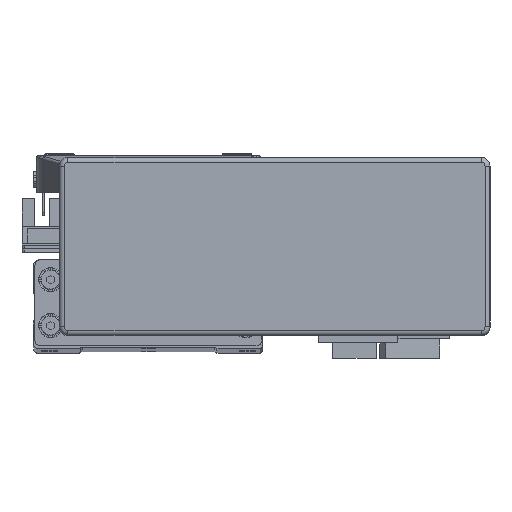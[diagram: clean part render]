
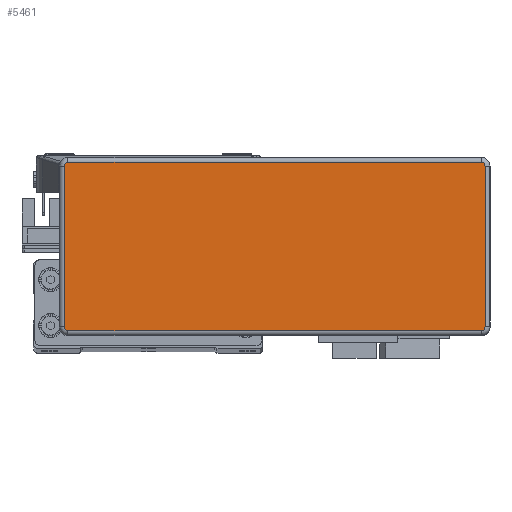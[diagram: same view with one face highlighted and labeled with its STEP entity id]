
A CAD part, top view. The second image highlights one B-rep face of the part: STEP entity #5461.
In plain terms, the highlighted planar face has unit normal (0, 0, 1) as drawn and (0, 0, -1) by its records, which use the part's own axes.
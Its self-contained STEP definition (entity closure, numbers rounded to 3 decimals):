
#5461 = ADVANCED_FACE ( 'NONE', ( #17401 ), #10799, .F. ) ;
#7023 = ORIENTED_EDGE ( 'NONE', *, *, #26825, .T. ) ;
#7032 = ORIENTED_EDGE ( 'NONE', *, *, #26712, .T. ) ;
#7051 = ORIENTED_EDGE ( 'NONE', *, *, #26823, .T. ) ;
#7078 = ORIENTED_EDGE ( 'NONE', *, *, #26742, .T. ) ;
#7083 = ORIENTED_EDGE ( 'NONE', *, *, #26744, .T. ) ;
#7084 = ORIENTED_EDGE ( 'NONE', *, *, #26727, .T. ) ;
#7092 = ORIENTED_EDGE ( 'NONE', *, *, #26786, .T. ) ;
#7099 = ORIENTED_EDGE ( 'NONE', *, *, #26705, .T. ) ;
#10799 = PLANE ( 'NONE',  #44109 ) ;
#10801 = DIRECTION ( 'NONE',  ( 1., 0., 0. ) ) ;
#10821 = CARTESIAN_POINT ( 'NONE',  ( 71.995, -27.995, -32.2 ) ) ;
#10829 = DIRECTION ( 'NONE',  ( 0., 0., 1. ) ) ;
#17401 = FACE_OUTER_BOUND ( 'NONE', #36054, .T. ) ;
#24876 = AXIS2_PLACEMENT_3D ( 'NONE', #32118, #32079, #32086 ) ;
#24950 = AXIS2_PLACEMENT_3D ( 'NONE', #32273, #32298, #32265 ) ;
#24981 = AXIS2_PLACEMENT_3D ( 'NONE', #32293, #32230, #32233 ) ;
#24991 = AXIS2_PLACEMENT_3D ( 'NONE', #32143, #32227, #32188 ) ;
#26705 = EDGE_CURVE ( 'NONE', #39694, #39703, #38606, .T. ) ;
#26712 = EDGE_CURVE ( 'NONE', #39812, #39694, #38571, .T. ) ;
#26727 = EDGE_CURVE ( 'NONE', #39696, #39714, #38607, .T. ) ;
#26742 = EDGE_CURVE ( 'NONE', #39796, #39739, #38600, .T. ) ;
#26744 = EDGE_CURVE ( 'NONE', #39703, #39786, #38603, .T. ) ;
#26786 = EDGE_CURVE ( 'NONE', #39786, #39796, #38631, .T. ) ;
#26823 = EDGE_CURVE ( 'NONE', #39714, #39812, #38714, .T. ) ;
#26825 = EDGE_CURVE ( 'NONE', #39739, #39696, #38685, .T. ) ;
#32028 = CARTESIAN_POINT ( 'NONE',  ( 73.295, -27.995, -32.2 ) ) ;
#32040 = DIRECTION ( 'NONE',  ( 0., -1., 0. ) ) ;
#32079 = DIRECTION ( 'NONE',  ( 0., 0., -1. ) ) ;
#32086 = DIRECTION ( 'NONE',  ( 1., 0., 0. ) ) ;
#32118 = CARTESIAN_POINT ( 'NONE',  ( 71.995, 27.995, -32.2 ) ) ;
#32143 = CARTESIAN_POINT ( 'NONE',  ( -71.995, 27.995, -32.2 ) ) ;
#32188 = DIRECTION ( 'NONE',  ( 1., 0., 0. ) ) ;
#32227 = DIRECTION ( 'NONE',  ( 0., 0., -1. ) ) ;
#32230 = DIRECTION ( 'NONE',  ( 0., 0., -1. ) ) ;
#32233 = DIRECTION ( 'NONE',  ( 1., 0., 0. ) ) ;
#32265 = DIRECTION ( 'NONE',  ( 1., 0., 0. ) ) ;
#32273 = CARTESIAN_POINT ( 'NONE',  ( 71.995, -27.995, -32.2 ) ) ;
#32293 = CARTESIAN_POINT ( 'NONE',  ( -71.995, -27.995, -32.2 ) ) ;
#32298 = DIRECTION ( 'NONE',  ( 0., 0., -1. ) ) ;
#32422 = DIRECTION ( 'NONE',  ( -1., 0., 0. ) ) ;
#32482 = CARTESIAN_POINT ( 'NONE',  ( 71.995, -29.295, -32.2 ) ) ;
#32676 = DIRECTION ( 'NONE',  ( 1., 0., 0. ) ) ;
#32688 = CARTESIAN_POINT ( 'NONE',  ( -73.295, -27.995, -32.2 ) ) ;
#32707 = CARTESIAN_POINT ( 'NONE',  ( 71.995, 29.295, -32.2 ) ) ;
#32727 = DIRECTION ( 'NONE',  ( 0., 1., 0. ) ) ;
#36054 = EDGE_LOOP ( 'NONE', ( #7099, #7083, #7092, #7078, #7023, #7084, #7051, #7032 ) ) ;
#38571 = CIRCLE ( 'NONE', #24876, 1.3 ) ;
#38600 = CIRCLE ( 'NONE', #24981, 1.3 ) ;
#38603 = CIRCLE ( 'NONE', #24950, 1.3 ) ;
#38604 = VECTOR ( 'NONE', #32040, 1000. ) ;
#38606 = LINE ( 'NONE', #32028, #38604 ) ;
#38607 = CIRCLE ( 'NONE', #24991, 1.3 ) ;
#38631 = LINE ( 'NONE', #32482, #38637 ) ;
#38637 = VECTOR ( 'NONE', #32422, 1000. ) ;
#38684 = VECTOR ( 'NONE', #32676, 1000. ) ;
#38685 = LINE ( 'NONE', #32688, #38705 ) ;
#38705 = VECTOR ( 'NONE', #32727, 1000. ) ;
#38714 = LINE ( 'NONE', #32707, #38684 ) ;
#39694 = VERTEX_POINT ( 'NONE', #45695 ) ;
#39696 = VERTEX_POINT ( 'NONE', #45705 ) ;
#39703 = VERTEX_POINT ( 'NONE', #45687 ) ;
#39714 = VERTEX_POINT ( 'NONE', #45727 ) ;
#39739 = VERTEX_POINT ( 'NONE', #45743 ) ;
#39786 = VERTEX_POINT ( 'NONE', #45843 ) ;
#39796 = VERTEX_POINT ( 'NONE', #45804 ) ;
#39812 = VERTEX_POINT ( 'NONE', #45834 ) ;
#44109 = AXIS2_PLACEMENT_3D ( 'NONE', #10821, #10829, #10801 ) ;
#45687 = CARTESIAN_POINT ( 'NONE',  ( 73.295, -27.995, -32.2 ) ) ;
#45695 = CARTESIAN_POINT ( 'NONE',  ( 73.295, 27.995, -32.2 ) ) ;
#45705 = CARTESIAN_POINT ( 'NONE',  ( -73.295, 27.995, -32.2 ) ) ;
#45727 = CARTESIAN_POINT ( 'NONE',  ( -71.995, 29.295, -32.2 ) ) ;
#45743 = CARTESIAN_POINT ( 'NONE',  ( -73.295, -27.995, -32.2 ) ) ;
#45804 = CARTESIAN_POINT ( 'NONE',  ( -71.995, -29.295, -32.2 ) ) ;
#45834 = CARTESIAN_POINT ( 'NONE',  ( 71.995, 29.295, -32.2 ) ) ;
#45843 = CARTESIAN_POINT ( 'NONE',  ( 71.995, -29.295, -32.2 ) ) ;
